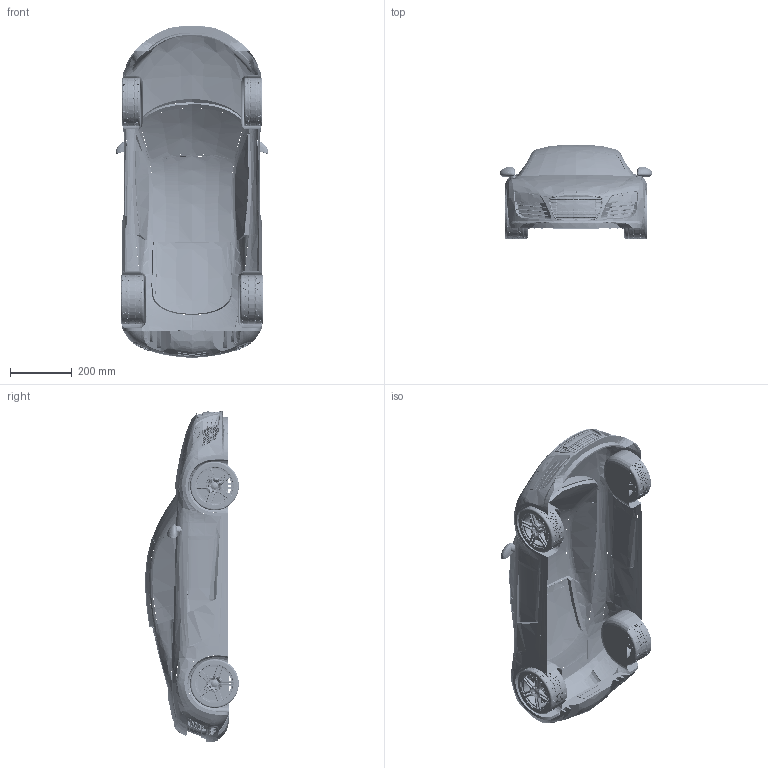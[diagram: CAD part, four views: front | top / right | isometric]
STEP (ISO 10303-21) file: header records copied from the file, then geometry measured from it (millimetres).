
FILE_DESCRIPTION (( 'STEP AP214' ), '1' );
FILE_NAME ('Audi R8 Car.STEP', '2017-01-14T10:04:06', ( '' ), ( '' ), 'SwSTEP 2.0', 'SolidWorks 2014', '' );
FILE_SCHEMA (( 'AUTOMOTIVE_DESIGN' ));
Length unit declared in the file: millimetre
Products named in the file (33): dv_zam; logo_back; podkr; bolt; torm_disk; Audi R8_korp; fon_kr; vihl_trub; front_bamp; Shina; front_light_reshet; zerk_zad_vid; Audi R8 Car; fr_light_rebra; Audi R8_kol_disk_front_kol_disk; resh_radiat; back_light_reshet; logo_front; Kol_disk_SB_Kol_disk_shina_front; front_light; podkr_back; Shina_back_shina; spoil; torm_kolod; lob_steklo; Audi R8_kol_disk_back_kol_disk; back_light_rebra; back_bamp; vozduh_zaborn; back_steklo; Kol_disk_SB_Kol_disk_shina_back; back_light; steklo
Assembly tree (45 placements, depth 3):
  Audi R8 Car
    Audi R8_korp
    Kol_disk_SB_Kol_disk_shina_back  x2
      Audi R8_kol_disk_back_kol_disk
      Shina_back_shina
      bolt
      torm_disk
      torm_kolod
    Kol_disk_SB_Kol_disk_shina_front  x2
      Audi R8_kol_disk_front_kol_disk
      Shina
      bolt
      torm_disk
      torm_kolod
    logo_front
    logo_back
    fon_kr
    podkr
    podkr_back
    steklo
    dv_zam
    front_bamp
    vihl_trub
    back_light
    spoil
    back_steklo
    back_bamp
    resh_radiat
    lob_steklo
    front_light
    front_light_reshet
    back_light_reshet
    vozduh_zaborn
    zerk_zad_vid
    fr_light_rebra
    back_light_rebra
Bounding box: 492.64 x 303.57 x 1076.29 mm (x, y, z)
Volume: 3963785.8 mm3; surface area: 2374220.3 mm2
Topology: 92 solids, 201 shells, 11667 faces, 35429 edges, 23685 vertices
Faces by surface type: plane 6610, bspline 2738, cylinder 2055, torus 164, cone 92, sphere 8
Entity records: 663536 total; most frequent: CARTESIAN_POINT 466267, ORIENTED_EDGE 49680, EDGE_CURVE 25266, DIRECTION 24734, VERTEX_POINT 17023, B_SPLINE_CURVE_WITH_KNOTS 15466, EDGE_LOOP 10322, AXIS2_PLACEMENT_3D 8778
